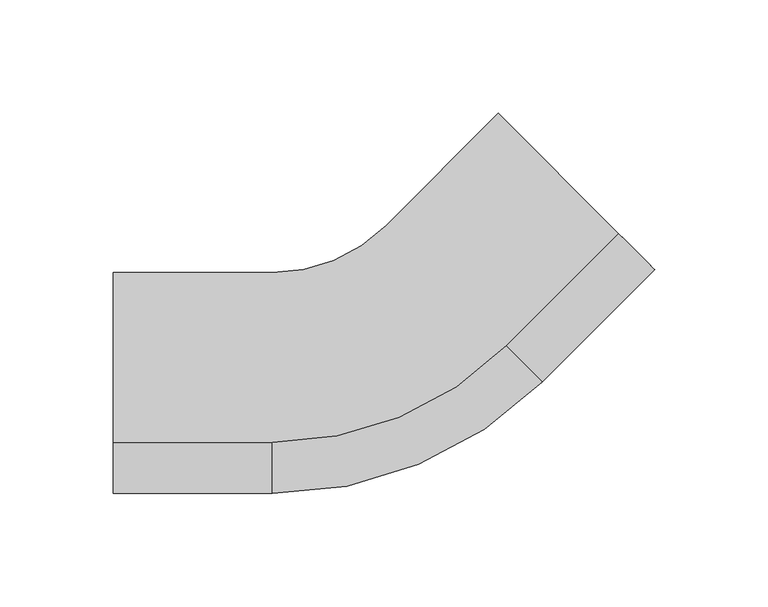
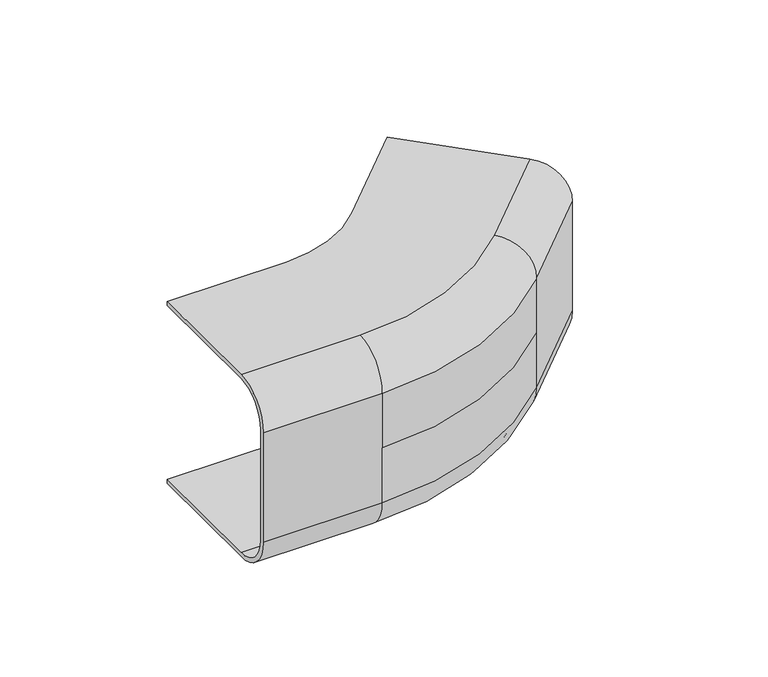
"""IFC4 building model written with IfcOpenShell, lengths in millimetres: cable carrier fitting geometry, ССT_Hyperline_FBTR-IRS45 Угол 45° внутренний (вверх) для оптического лотка : Угол 45° внутренний (вверх) для оптического лотка."""

import ifcopenshell
import ifcopenshell.guid

model = None  # the IFC model being written
_history = None  # IfcOwnerHistory: only IFC2X3 demands one
_inside = {}  # id of a spatial element -> (the spatial element, [elements in it])
_under = {}  # id of a project, library or spatial element -> (it, [spatial elements below it])
_declared = {}  # id of a project -> (the project, [libraries it declares])
_typed = {}  # id of a type object -> (the type object, [elements of that type])
_made_of = {}  # id of a material, layer set ... -> (it, [elements and type objects made of it])


def new_model(schema):
    """Start an empty IFC model of exactly this schema.

    Asked for "IFC4X3", IfcOpenShell would pick the latest addendum, in which some entities
    have other attributes; the version numbers below select the first issue.
    IFC2X3 requires an IfcOwnerHistory on every rooted entity: one is made here for all.
    """
    global model, _history
    if schema == "IFC4X3":
        model = ifcopenshell.file(schema_version=(4, 3, 0, 0))
    else:
        model = ifcopenshell.file(schema=schema)
    _inside.clear()
    _under.clear()
    _declared.clear()
    _typed.clear()
    _made_of.clear()
    _history = None
    if model.schema == "IFC2X3":
        org = make("IfcOrganization", Name="unknown")
        user = make(
            "IfcPersonAndOrganization",
            ThePerson=make("IfcPerson", FamilyName="unknown"),
            TheOrganization=org,
        )
        app = make(
            "IfcApplication",
            ApplicationDeveloper=org,
            Version="unknown",
            ApplicationFullName="unknown",
            ApplicationIdentifier="unknown",
        )
        _history = make(
            "IfcOwnerHistory",
            OwningUser=user,
            OwningApplication=app,
            ChangeAction="ADDED",
            CreationDate=0,
        )
    return model


def make(cls, **values):
    """One entity of the class cls with the attributes given. An attribute that is None is left unset."""
    return model.create_entity(
        cls, **{name: value for name, value in values.items() if value is not None}
    )


def rooted(cls, **values):
    """An entity with a GlobalId (a new one), such as an element, a storey or a relation."""
    return make(cls, GlobalId=ifcopenshell.guid.new(), OwnerHistory=_history, **values)


def si_unit(unit_type, name, prefix=None):
    """IfcSIUnit, for example si_unit("LENGTHUNIT", "METRE", prefix="MILLI")."""
    return make("IfcSIUnit", UnitType=unit_type, Prefix=prefix, Name=name)


def assignment(units):
    """IfcUnitAssignment: the units of a project."""
    return None if units is None else make("IfcUnitAssignment", Units=units)


def point(xyz):
    """IfcCartesianPoint."""
    return None if xyz is None else make("IfcCartesianPoint", Coordinates=xyz)


def direction(xyz):
    """IfcDirection."""
    return None if xyz is None else make("IfcDirection", DirectionRatios=xyz)


def frame(location, z_axis=None, x_axis=None):
    """IfcAxis2Placement3D, a coordinate frame: its origin and axes. An axis left out is left unset."""
    return make(
        "IfcAxis2Placement3D",
        Location=point(location),
        Axis=direction(z_axis),
        RefDirection=direction(x_axis),
    )


def origin():
    """The frame at (0, 0, 0) with its axes left unset."""
    return frame((0.0, 0.0, 0.0))


def place(relative_to, where):
    """IfcLocalPlacement: puts the frame where relative to a parent placement (None: the world)."""
    return make(
        "IfcLocalPlacement", PlacementRelTo=relative_to, RelativePlacement=where
    )


def context(
    kind, dimensions, precision=None, world=None, true_north=None, identifier=None
):
    """IfcGeometricRepresentationContext, for example the 3D "Model" context."""
    return make(
        "IfcGeometricRepresentationContext",
        ContextIdentifier=identifier,
        ContextType=kind,
        CoordinateSpaceDimension=dimensions,
        Precision=precision,
        WorldCoordinateSystem=world,
        TrueNorth=true_north,
    )


def project(units=None, contexts=None):
    """IfcProject with its units and contexts."""
    return rooted(
        "IfcProject",
        Name="project",
        RepresentationContexts=contexts,
        UnitsInContext=assignment(units),
    )


def spatial(cls, under=None, at=None, **own):
    """A site, building, storey or space (cls), placed at a placement, below another one or the project."""
    s = rooted(cls, ObjectPlacement=at, **own)
    if under is not None:
        _under.setdefault(under.id(), (under, []))[1].append(s)
    return s


def polyline(points):
    """IfcPolyline through the points."""
    return make("IfcPolyline", Points=[point(p) for p in points])


def circle_curve(where, radius):
    """IfcCircle in the frame where."""
    return make("IfcCircle", Position=where, Radius=radius)


def ellipse_curve(where, semi_axis1, semi_axis2):
    """IfcEllipse in the frame where."""
    return make(
        "IfcEllipse", Position=where, SemiAxis1=semi_axis1, SemiAxis2=semi_axis2
    )


def trimmed(basis, trim1, trim2, sense, master):
    """IfcTrimmedCurve: the piece of a basis curve between two trims."""
    return make(
        "IfcTrimmedCurve",
        BasisCurve=basis,
        Trim1=trim1,
        Trim2=trim2,
        SenseAgreement=sense,
        MasterRepresentation=master,
    )


def shape(context_of_items, identifier, shape_type, items):
    """IfcShapeRepresentation: the items that make up one representation, for example the "Body"."""
    return make(
        "IfcShapeRepresentation",
        ContextOfItems=context_of_items,
        RepresentationIdentifier=identifier,
        RepresentationType=shape_type,
        Items=items,
    )


def source(mapping_origin, context_of_items, identifier, shape_type, items):
    """IfcRepresentationMap: a shape defined once, which mapped items show again and again."""
    return make(
        "IfcRepresentationMap",
        MappingOrigin=mapping_origin,
        MappedRepresentation=shape(context_of_items, identifier, shape_type, items),
    )


def transform(
    local_origin,
    x_axis=None,
    y_axis=None,
    z_axis=None,
    scale=None,
    scale2=None,
    scale3=None,
    uniform=True,
):
    """IfcCartesianTransformationOperator3D, or its non-uniform kind. x_axis, y_axis, z_axis: its Axis1, 2, 3."""
    if uniform:
        return make(
            "IfcCartesianTransformationOperator3D",
            Axis1=direction(x_axis),
            Axis2=direction(y_axis),
            LocalOrigin=point(local_origin),
            Scale=scale,
            Axis3=direction(z_axis),
        )
    return make(
        "IfcCartesianTransformationOperator3DnonUniform",
        Axis1=direction(x_axis),
        Axis2=direction(y_axis),
        LocalOrigin=point(local_origin),
        Scale=scale,
        Axis3=direction(z_axis),
        Scale2=scale2,
        Scale3=scale3,
    )


def mapped(mapping_source, mapping_target):
    """IfcMappedItem: shows the shape of a source again, moved by a transform."""
    return make(
        "IfcMappedItem", MappingSource=mapping_source, MappingTarget=mapping_target
    )


def made_of(thing, what):
    """Note that an element or type object is made of a material, layer set ...; save() writes the relation."""
    if what is not None:
        _made_of.setdefault(what.id(), (what, []))[1].append(thing)
    return thing


def element(
    cls,
    number,
    at=None,
    inside=None,
    cuts=None,
    type_object=None,
    material=None,
    context=None,
    identifier="Body",
    shape_type=None,
    held_by="IfcProductDefinitionShape",
    body=None,
    shapes=None,
    **own,
):
    """One element of the class cls, such as IfcWall. Its Tag is "e" and its number.

    at: its placement. inside: the storey or other place that contains it. cuts: it is an
    opening in that element (IfcRelVoidsElement). A single representation is given by context,
    identifier, shape_type and body (its items); several are given by shapes. held_by: the class
    of the entity that holds the representations. save() writes the other relations.
    """
    e = rooted(cls, Tag="e%d" % number, ObjectPlacement=at, **own)
    if body is not None:
        shapes = [shape(context, identifier, shape_type, body)]
    if shapes is not None:
        e.Representation = make(held_by, Representations=shapes)
    if inside is not None:
        _inside.setdefault(inside.id(), (inside, []))[1].append(e)
    if cuts is not None:
        rooted(
            "IfcRelVoidsElement", RelatingBuildingElement=cuts, RelatedOpeningElement=e
        )
    if type_object is not None:
        _typed.setdefault(type_object.id(), (type_object, []))[1].append(e)
    return made_of(e, material)


def aggregate(whole, parts):
    """IfcRelAggregates: a whole, such as a stair, and the parts it consists of."""
    return rooted("IfcRelAggregates", RelatingObject=whole, RelatedObjects=parts)


def save(model, path):
    """Write the relations noted so far, then the file.

    IfcRelAggregates (storeys below a building ...), IfcRelContainedInSpatialStructure (elements
    in a storey), IfcRelDefinesByType, IfcRelAssociatesMaterial and IfcRelDeclares: one each for
    every whole, place, type object, material and project.
    """
    for whole, parts in _under.values():
        aggregate(whole, parts)
    for where, things in _inside.values():
        rooted(
            "IfcRelContainedInSpatialStructure",
            RelatedElements=things,
            RelatingStructure=where,
        )
    for kind, things in _typed.values():
        rooted("IfcRelDefinesByType", RelatedObjects=things, RelatingType=kind)
    for what, things in _made_of.values():
        rooted("IfcRelAssociatesMaterial", RelatedObjects=things, RelatingMaterial=what)
    for by, libraries in _declared.values():
        rooted("IfcRelDeclares", RelatingContext=by, RelatedDefinitions=libraries)
    model.write(path)


def plane_surface(at):
    """IfcPlane: the flat surface through the origin of the frame at, square to its z axis."""
    return make("IfcPlane", Position=at)


def cylinder_surface(at, radius):
    """IfcCylindricalSurface: all points at the distance radius from the z axis of the frame at."""
    return make("IfcCylindricalSurface", Position=at, Radius=radius)


def revolved_surface(curve, axis_point, axis_direction):
    """IfcSurfaceOfRevolution: the curve turned about the line through axis_point along axis_direction."""
    return make(
        "IfcSurfaceOfRevolution",
        SweptCurve=make("IfcArbitraryOpenProfileDef", ProfileType="CURVE", Curve=curve),
        AxisPosition=make("IfcAxis1Placement", Location=point(axis_point), Axis=direction(axis_direction)),
    )


def advanced_brep(points, edges, surfaces, faces):
    """IfcAdvancedBrep: a solid bounded by faces that lie on surfaces and meet in shared edges.

    An edge is (start, end): straight between two places in points (the first is 0);
    or (start, end, curve); or (start, end, curve, False) where it runs against its curve.
    A face is (place in surfaces, loops), or (place, loops, False) where it looks against
    its surface's normal. A loop lists edges by number (the first is 1), with a minus sign
    where the edge is run from its end to its start. The first loop is the outer one.
    """
    corners = [point(p) for p in points]
    vertices = [make("IfcVertexPoint", VertexGeometry=c) for c in corners]
    made = []
    for start, end, *more in edges:
        made.append(
            make(
                "IfcEdgeCurve",
                EdgeStart=vertices[start],
                EdgeEnd=vertices[end],
                EdgeGeometry=more[0] if more else make("IfcPolyline", Points=[corners[start], corners[end]]),
                SameSense=more[1] if len(more) > 1 else True,
            )
        )
    hull = []
    for where, loops, *sense in faces:
        bounds = []
        for j, loop in enumerate(loops):
            ring = [make("IfcOrientedEdge", EdgeElement=made[abs(k) - 1], Orientation=k > 0) for k in loop]
            bounds.append(
                make(
                    "IfcFaceOuterBound" if j == 0 else "IfcFaceBound",
                    Bound=make("IfcEdgeLoop", EdgeList=ring),
                    Orientation=True,
                )
            )
        hull.append(make("IfcAdvancedFace", Bounds=bounds, FaceSurface=surfaces[where], SameSense=sense[0] if sense else True))
    return make("IfcAdvancedBrep", Outer=make("IfcClosedShell", CfsFaces=hull))


def cable_carrier_fitting_88c24c74(model_context):
    return source(origin(), model_context, "Body", "AdvancedBrep", [
        advanced_brep(
        [(116.6255217, 53.3960333, 34.0), (102.483386, 67.5381689, 54.0), (49.4786617, 120.5428932, 54.0), (49.4786617, 120.5428932, 56.54), (102.483386, 67.5381689, 56.54), (118.4215729, 51.5999821, 34.0), (118.4215729, 51.5999821, -34.0), (102.483386, 67.5381689, -56.54), (49.4786617, 120.5428932, -56.54), (49.4786617, 120.5428932, -54.0), (102.483386, 67.5381689, -54.0), (116.6255217, 53.3960333, -34.0), (52.9859114, 18.0406942, -54.0), (67.128047, 3.8985586, -34.0), (-0.018813, 71.0454185, -54.0), (-50.2233944, 50.25, -54.0), (-120.2233944, 50.25, -54.0), (-120.2233944, -24.71, -54.0), (-50.2233944, -24.71, -54.0), (-0.018813, 71.0454185, -56.54), (52.9859114, 18.0406942, -56.54), (-50.2233944, -24.71, -56.54), (-120.2233944, -24.71, -56.54), (-120.2233944, 50.25, -56.54), (-50.2233944, 50.25, -56.54), (68.9240982, 2.1025074, -34.0), (68.9240982, 2.1025074, 34.0), (68.9240982, 2.1025074, 0.0), (67.128047, 3.8985586, 0.0), (67.128047, 3.8985586, 34.0), (-50.2233944, -44.71, -34.0), (-50.2233944, -47.25, -34.0), (-50.2233944, -47.25, 0.0), (-50.2233944, -44.71, 0.0), (-120.2233944, -47.25, -34.0), (-120.2233944, -47.25, 34.0), (-120.2233944, -24.71, 56.54), (-120.2233944, 50.25, 56.54), (-120.2233944, 50.25, 54.0), (-120.2233944, -24.71, 54.0), (-120.2233944, -44.71, 34.0), (-120.2233944, -44.71, -34.0), (-50.2233944, -47.25, 34.0), (-50.2233944, -44.71, 34.0), (52.9859114, 18.0406942, 54.0), (-50.2233944, -24.71, 54.0), (-50.2233944, 50.25, 54.0), (-0.018813, 71.0454185, 54.0), (-0.018813, 71.0454185, 56.54), (-50.2233944, 50.25, 56.54), (-50.2233944, -24.71, 56.54), (52.9859114, 18.0406942, 56.54)],
        [
            (0, 1, circle_curve(frame((102.483386, 67.5381689, 34.0), z_axis=(-0.7071067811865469, -0.7071067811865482, 0.0), x_axis=(0.7071067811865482, -0.7071067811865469, 0.0)), 20.0)),
            (1, 2),
            (2, 3),
            (3, 4),
            (4, 5, circle_curve(frame((102.483386, 67.5381689, 34.0), z_axis=(0.7071067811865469, 0.7071067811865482, 0.0), x_axis=(0.7071067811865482, -0.7071067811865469, 0.0)), 22.54)),
            (5, 6),
            (6, 7, circle_curve(frame((102.483386, 67.5381689, -34.0), z_axis=(0.7071067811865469, 0.7071067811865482, 0.0), x_axis=(0.7071067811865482, -0.7071067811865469, 0.0)), 22.54)),
            (7, 8),
            (8, 9),
            (9, 10),
            (10, 11, circle_curve(frame((102.483386, 67.5381689, -34.0), z_axis=(-0.7071067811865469, -0.7071067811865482, 0.0), x_axis=(0.7071067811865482, -0.7071067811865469, 0.0)), 20.0)),
            (11, 0),
            (10, 12),
            (12, 13, circle_curve(frame((52.9859114, 18.0406942, -34.0), z_axis=(-0.7071067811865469, -0.7071067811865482, 0.0), x_axis=(0.7071067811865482, -0.7071067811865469, 0.0)), 20.0)),
            (13, 11),
            (9, 14),
            (14, 15, circle_curve(frame((-50.2233944, 121.25, -54.0), z_axis=(0.0, 0.0, -1.0), x_axis=(0.7071067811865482, -0.7071067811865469, 0.0)), 71.0)),
            (15, 16),
            (16, 17),
            (17, 18),
            (18, 12, circle_curve(frame((-50.2233944, 121.25, -54.0), z_axis=(0.0, 0.0, 1.0), x_axis=(0.7071067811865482, -0.7071067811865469, 0.0)), 145.96)),
            (8, 19),
            (19, 14),
            (7, 20),
            (20, 21, circle_curve(frame((-50.2233944, 121.25, -56.54), z_axis=(0.0, 0.0, -1.0), x_axis=(0.7071067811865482, -0.7071067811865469, 0.0)), 145.96)),
            (21, 22),
            (22, 23),
            (23, 24),
            (24, 19, circle_curve(frame((-50.2233944, 121.25, -56.54), z_axis=(0.0, 0.0, 1.0), x_axis=(0.7071067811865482, -0.7071067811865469, 0.0)), 71.0)),
            (6, 25),
            (25, 20, circle_curve(frame((52.9859114, 18.0406942, -34.0), z_axis=(0.7071067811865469, 0.7071067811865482, 0.0), x_axis=(0.7071067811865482, -0.7071067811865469, 0.0)), 22.54)),
            (5, 26),
            (26, 27),
            (27, 25),
            (13, 28),
            (28, 29),
            (29, 0),
            (18, 30, circle_curve(frame((-50.2233944, -24.71, -34.0), z_axis=(-1.0, 0.0, 0.0), x_axis=(0.0, -1.0, 0.0)), 20.0)),
            (30, 13, circle_curve(frame((-50.2233944, 121.25, -34.0), z_axis=(0.0, 0.0, 1.0), x_axis=(0.7071067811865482, -0.7071067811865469, 0.0)), 165.96)),
            (24, 15),
            (25, 31, circle_curve(frame((-50.2233944, 121.25, -34.0), z_axis=(0.0, 0.0, -1.0), x_axis=(0.7071067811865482, -0.7071067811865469, 0.0)), 168.5)),
            (31, 21, circle_curve(frame((-50.2233944, -24.71, -34.0), z_axis=(1.0, 0.0, 0.0), x_axis=(0.0, -1.0, 0.0)), 22.54)),
            (27, 32, circle_curve(frame((-50.2233944, 121.25, 0.0), z_axis=(0.0, 0.0, -1.0), x_axis=(0.7071067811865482, -0.7071067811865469, 0.0)), 168.5)),
            (32, 31),
            (30, 33),
            (33, 28, circle_curve(frame((-50.2233944, 121.25, 0.0), z_axis=(0.0, 0.0, 1.0), x_axis=(0.7071067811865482, -0.7071067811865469, 0.0)), 165.96)),
            (16, 23),
            (22, 34, circle_curve(frame((-120.2233944, -24.71, -34.0), z_axis=(-1.0, 0.0, 0.0), x_axis=(0.0, -1.0, 0.0)), 22.54)),
            (34, 35),
            (35, 36, circle_curve(frame((-120.2233944, -24.71, 34.0), z_axis=(-1.0, 0.0, 0.0), x_axis=(0.0, -1.0000000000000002, 0.0)), 22.54)),
            (36, 37),
            (37, 38),
            (38, 39),
            (39, 40, circle_curve(frame((-120.2233944, -24.71, 34.0), z_axis=(1.0, 0.0, 0.0), x_axis=(0.0, -1.0000000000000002, 0.0)), 20.0)),
            (40, 41),
            (41, 17, circle_curve(frame((-120.2233944, -24.71, -34.0), z_axis=(1.0, 0.0, 0.0), x_axis=(0.0, -1.0, 0.0)), 20.0)),
            (41, 30),
            (31, 34),
            (32, 42),
            (42, 35),
            (40, 43),
            (43, 33),
            (29, 44, circle_curve(frame((52.9859114, 18.0406942, 34.0), z_axis=(-0.7071067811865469, -0.7071067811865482, 0.0), x_axis=(0.7071067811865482, -0.7071067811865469, 0.0)), 20.0)),
            (44, 1),
            (44, 45, circle_curve(frame((-50.2233944, 121.25, 54.0), z_axis=(0.0, 0.0, -1.0), x_axis=(0.7071067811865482, -0.7071067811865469, 0.0)), 145.96)),
            (45, 39),
            (38, 46),
            (46, 47, circle_curve(frame((-50.2233944, 121.25, 54.0), z_axis=(0.0, 0.0, 1.0), x_axis=(0.7071067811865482, -0.7071067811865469, 0.0)), 71.0)),
            (47, 2),
            (47, 48),
            (48, 3),
            (48, 49, circle_curve(frame((-50.2233944, 121.25, 56.54), z_axis=(0.0, 0.0, -1.0), x_axis=(0.7071067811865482, -0.7071067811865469, 0.0)), 71.0)),
            (49, 37),
            (36, 50),
            (50, 51, circle_curve(frame((-50.2233944, 121.25, 56.54), z_axis=(0.0, 0.0, 1.0), x_axis=(0.7071067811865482, -0.7071067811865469, 0.0)), 145.96)),
            (51, 4),
            (51, 26, circle_curve(frame((52.9859114, 18.0406942, 34.0), z_axis=(0.7071067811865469, 0.7071067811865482, 0.0), x_axis=(0.7071067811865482, -0.7071067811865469, 0.0)), 22.54)),
            (29, 43, circle_curve(frame((-50.2233944, 121.25, 34.0), z_axis=(0.0, 0.0, -1.0), x_axis=(0.7071067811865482, -0.7071067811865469, 0.0)), 165.96)),
            (43, 45, circle_curve(frame((-50.2233944, -24.71, 34.0), z_axis=(-1.0, 0.0, 0.0), x_axis=(0.0, -1.0, 0.0)), 20.0)),
            (46, 49),
            (50, 42, circle_curve(frame((-50.2233944, -24.71, 34.0), z_axis=(1.0, 0.0, 0.0), x_axis=(0.0, -1.0, 0.0)), 22.54)),
            (42, 26, circle_curve(frame((-50.2233944, 121.25, 34.0), z_axis=(0.0, 0.0, 1.0), x_axis=(0.7071067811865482, -0.7071067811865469, 0.0)), 168.5)),
        ],
        [
            plane_surface(frame((84.126894, 85.8946609, -55.0), z_axis=(0.7071067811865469, 0.7071067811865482, 0.0), x_axis=(0.0, 0.0, 1.0))),
            revolved_surface(polyline([(67.12804697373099, 3.8985586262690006, -34.0), (116.62552167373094, 53.39603332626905, -34.0)]), (102.483386, 67.5381689, -34.0), (-0.7071067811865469, -0.7071067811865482, 0.0)),
            plane_surface(frame((49.4786617, 120.5428932, -54.0), z_axis=(0.0, 0.0, 1.0), x_axis=(-0.7071067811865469, -0.7071067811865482, 0.0))),
            plane_surface(frame((49.4786617, 120.5428932, -56.54), z_axis=(-0.7071067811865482, 0.7071067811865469, 0.0), x_axis=(-0.7071067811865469, -0.7071067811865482, 0.0))),
            plane_surface(frame((102.483386, 67.5381689, -56.54), z_axis=(0.0, 0.0, -1.0), x_axis=(-0.7071067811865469, -0.7071067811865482, 0.0))),
            cylinder_surface(frame((102.483386, 67.5381689, -34.0), z_axis=(0.7071067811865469, 0.7071067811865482, 0.0), x_axis=(0.7071067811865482, -0.7071067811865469, 0.0)), 22.54),
            plane_surface(frame((118.4215729, 51.5999821, 0.0), z_axis=(0.7071067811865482, -0.7071067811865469, 0.0), x_axis=(-0.7071067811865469, -0.7071067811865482, 0.0))),
            plane_surface(frame((116.6255217, 53.3960333, -34.0), z_axis=(-0.7071067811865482, 0.7071067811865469, 0.0), x_axis=(-0.7071067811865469, -0.7071067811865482, 0.0))),
            revolved_surface(trimmed(ellipse_curve(frame((52.9859114, 18.0406942, -34.0), z_axis=(-0.7071067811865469, -0.7071067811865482, 0.0), x_axis=(0.7071067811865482, -0.7071067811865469, 0.0)), 20.0, 20.0), [point((52.9859114, 18.0406942, -54.0))], [point((67.128047, 3.8985586, -34.0))], True, "CARTESIAN"), (-50.2233944, 121.25, -55.0), (0.0, 0.0, -1.0)),
            revolved_surface(polyline([(-0.018812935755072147, 71.04541853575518, -56.54), (-0.018812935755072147, 71.04541853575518, -54.0)]), (-50.2233944, 121.25, -55.0), (0.0, 0.0, -1.0)),
            revolved_surface(trimmed(ellipse_curve(frame((52.9859114, 18.0406942, -34.0), z_axis=(0.7071067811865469, 0.7071067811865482, 0.0), x_axis=(0.7071067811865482, -0.7071067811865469, 0.0)), 22.54, 22.54), [point((68.9240982, 2.1025074, -34.0))], [point((52.9859114, 18.0406942, -56.54))], True, "CARTESIAN"), (-50.2233944, 121.25, -55.0), (0.0, 0.0, -1.0)),
            cylinder_surface(frame((-50.2233944, 121.25, -55.0), z_axis=(0.0, 0.0, -1.0), x_axis=(0.7071067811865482, -0.7071067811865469, 0.0)), 168.5),
            revolved_surface(polyline([(67.12804700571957, 3.898558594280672, -34.0), (67.12804700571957, 3.898558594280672, 0.0)]), (-50.2233944, 121.25, -55.0), (0.0, 0.0, -1.0)),
            plane_surface(frame((-120.2233944, 1.25, -55.0), z_axis=(-1.0, 0.0, 0.0), x_axis=(0.0, 0.0, 1.0))),
            revolved_surface(polyline([(-120.22339439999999, -44.71, -34.0), (-50.2233944, -44.71, -34.0)]), (-50.2233944, -24.71, -34.0), (-1.0, 0.0, 0.0)),
            plane_surface(frame((-50.2233944, 50.25, -56.54), z_axis=(0.0, 1.0, 0.0), x_axis=(-1.0, 0.0, 0.0))),
            cylinder_surface(frame((-50.2233944, -24.71, -34.0), z_axis=(1.0, 0.0, 0.0), x_axis=(0.0, -1.0, 0.0)), 22.54),
            plane_surface(frame((-50.2233944, -47.25, 0.0), z_axis=(0.0, -1.0, 0.0), x_axis=(-1.0, 0.0, 0.0))),
            plane_surface(frame((-50.2233944, -44.71, -34.0), z_axis=(0.0, 1.0, 0.0), x_axis=(-1.0, 0.0, 0.0))),
            revolved_surface(polyline([(67.12804697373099, 3.8985586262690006, 34.0), (116.62552167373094, 53.39603332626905, 34.0)]), (102.483386, 67.5381689, 34.0), (-0.7071067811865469, -0.7071067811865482, 0.0)),
            plane_surface(frame((102.483386, 67.5381689, 54.0), z_axis=(0.0, 0.0, -1.0), x_axis=(-0.7071067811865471, -0.707106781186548, 0.0))),
            plane_surface(frame((49.4786617, 120.5428932, 54.0), z_axis=(-0.7071067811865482, 0.7071067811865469, 0.0), x_axis=(-0.7071067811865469, -0.7071067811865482, 0.0))),
            plane_surface(frame((49.4786617, 120.5428932, 56.54), z_axis=(0.0, 0.0, 1.0), x_axis=(-0.7071067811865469, -0.7071067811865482, 0.0))),
            cylinder_surface(frame((102.483386, 67.5381689, 34.0), z_axis=(0.7071067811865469, 0.7071067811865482, 0.0), x_axis=(0.7071067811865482, -0.7071067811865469, 0.0)), 22.54),
            revolved_surface(trimmed(ellipse_curve(frame((52.9859114, 18.0406942, 34.0), z_axis=(-0.7071067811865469, -0.7071067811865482, 0.0), x_axis=(0.7071067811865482, -0.7071067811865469, 0.0)), 20.0, 20.0), [point((67.128047, 3.8985586, 34.0))], [point((52.9859114, 18.0406942, 54.0))], True, "CARTESIAN"), (-50.2233944, 121.25, 55.0), (0.0, 0.0, -1.0)),
            revolved_surface(polyline([(-0.018812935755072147, 71.04541853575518, 54.0), (-0.018812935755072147, 71.04541853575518, 56.54)]), (-50.2233944, 121.25, 55.0), (0.0, 0.0, -1.0)),
            revolved_surface(trimmed(ellipse_curve(frame((52.9859114, 18.0406942, 34.0), z_axis=(0.7071067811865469, 0.7071067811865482, 0.0), x_axis=(0.7071067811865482, -0.7071067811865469, 0.0)), 22.54, 22.54), [point((52.9859114, 18.0406942, 56.54))], [point((68.9240982, 2.1025074, 34.0))], True, "CARTESIAN"), (-50.2233944, 121.25, 55.0), (0.0, 0.0, -1.0)),
            cylinder_surface(frame((-50.2233944, 121.25, 55.0), z_axis=(0.0, 0.0, -1.0), x_axis=(0.7071067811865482, -0.7071067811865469, 0.0)), 168.5),
            revolved_surface(polyline([(67.12804700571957, 3.898558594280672, 0.0), (67.12804700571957, 3.898558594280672, 34.0)]), (-50.2233944, 121.25, 55.0), (0.0, 0.0, -1.0)),
            revolved_surface(polyline([(-120.22339440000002, -44.71000000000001, 34.0), (-50.2233944, -44.71000000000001, 34.0)]), (-50.2233944, -24.71, 34.0), (-1.0000000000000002, 0.0, 0.0)),
            plane_surface(frame((-50.2233944, 50.25, 54.0), z_axis=(0.0, 1.0, 0.0), x_axis=(-1.0, 0.0, 0.0))),
            cylinder_surface(frame((-50.2233944, -24.71, 34.0), z_axis=(1.0000000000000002, 0.0, 0.0), x_axis=(0.0, -1.0000000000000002, 0.0)), 22.54),
        ],
        [
            (0, [[1, 2, 3, 4, 5, 6, 7, 8, 9, 10, 11, 12]]),
            (1, [[-11, 13, 14, 15]]),
            (2, [[-10, 16, 17, 18, 19, 20, 21, -13]]),
            (3, [[-9, 22, 23, -16]]),
            (4, [[-8, 24, 25, 26, 27, 28, 29, -22]]),
            (5, [[-7, 30, 31, -24]]),
            (6, [[-6, 32, 33, 34, -30]]),
            (7, [[-12, -15, 35, 36, 37]]),
            (8, [[-14, -21, 38, 39]]),
            (9, [[-17, -23, -29, 40]]),
            (10, [[-25, -31, 41, 42]]),
            (11, [[-34, 43, 44, -41]]),
            (12, [[-35, -39, 45, 46]]),
            (13, [[-19, 47, -27, 48, 49, 50, 51, 52, 53, 54, 55, 56]]),
            (14, [[-20, -56, 57, -38]]),
            (15, [[-18, -40, -28, -47]]),
            (16, [[-26, -42, 58, -48]]),
            (17, [[-44, 59, 60, -49, -58]]),
            (18, [[-45, -57, -55, 61, 62]]),
            (19, [[-1, -37, 63, 64]]),
            (20, [[-2, -64, 65, 66, -53, 67, 68, 69]]),
            (21, [[-3, -69, 70, 71]]),
            (22, [[-4, -71, 72, 73, -51, 74, 75, 76]]),
            (23, [[-5, -76, 77, -32]]),
            (24, [[-63, 78, 79, -65]]),
            (25, [[-68, 80, -72, -70]]),
            (26, [[-75, 81, 82, -77]]),
            (27, [[-33, -82, -59, -43]]),
            (28, [[-36, -46, -62, -78]]),
            (29, [[-66, -79, -61, -54]]),
            (30, [[-67, -52, -73, -80]]),
            (31, [[-74, -50, -60, -81]]),
        ],
    ),
    ])


if __name__ == "__main__":
    model = new_model("IFC4")
    model_context = context("Model", 3, world=origin())
    ifc_project = project(units=[si_unit("LENGTHUNIT", "METRE", prefix="MILLI")], contexts=[model_context])
    site = spatial("IfcSite", under=ifc_project)
    building = spatial("IfcBuilding", under=site)
    placement = place(None, origin())
    cable_carrier_fitting_shape = cable_carrier_fitting_88c24c74(model_context)
    element("IfcCableCarrierFitting", 1, ObjectType="ССT_Hyperline_FBTR-IRS45 Угол 45° внутренний (вверх) для оптического лотка : Угол 45° внутренний (вверх) для оптического лотка", at=placement, inside=building, context=model_context, shape_type="MappedRepresentation", body=[
        mapped(cable_carrier_fitting_shape, transform((0.0, 0.0, 0.0), x_axis=(1.0, 0.0, 0.0), y_axis=(0.0, 1.0, 0.0), z_axis=(0.0, 0.0, 1.0))),
    ])
    save(model, "model.ifc")
